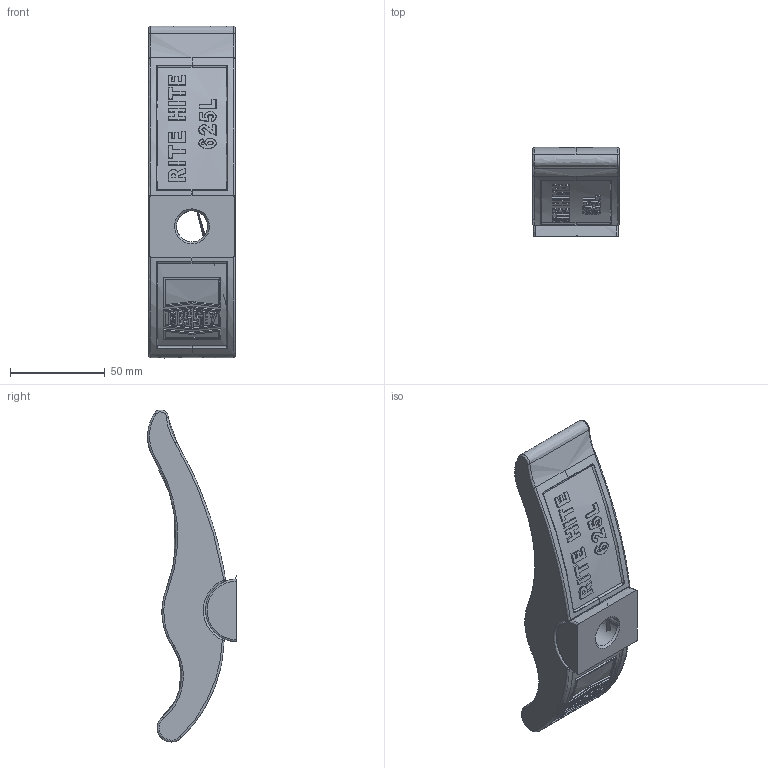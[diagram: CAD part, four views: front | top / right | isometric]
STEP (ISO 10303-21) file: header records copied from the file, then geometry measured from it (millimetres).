
FILE_DESCRIPTION( ( 'STEP AP214' ), '1' );
FILE_NAME( 'Z:/Klein/11_2012/Rite Hite_Drew/625L.stp', ' ', ( ' ' ), ( ' ' ), 'PSStep 11.0', ' ', ' ' );
FILE_SCHEMA( ( 'AUTOMOTIVE_DESIGN { 1 0 10303 214 1 1 1 1 }' ) );
Length unit declared in the file: metre
Products named in the file (2): 1; 2
Bounding box: 46 x 46.97 x 175.64 mm (x, y, z)
Volume: 155330.6 mm3; surface area: 32507.1 mm2
Topology: 2 solids, 2 shells, 649 faces, 1785 edges, 1166 vertices
Faces by surface type: bspline 649
Entity records: 33348 total; most frequent: CARTESIAN_POINT 17538, ORIENTED_EDGE 3570, EDGE_CURVE 1785, B_SPLINE_CURVE_WITH_KNOTS 1531, VERTEX_POINT 1166, EDGE_LOOP 679, STYLED_ITEM 649, PRESENTATION_STYLE_ASSIGNMENT 649
